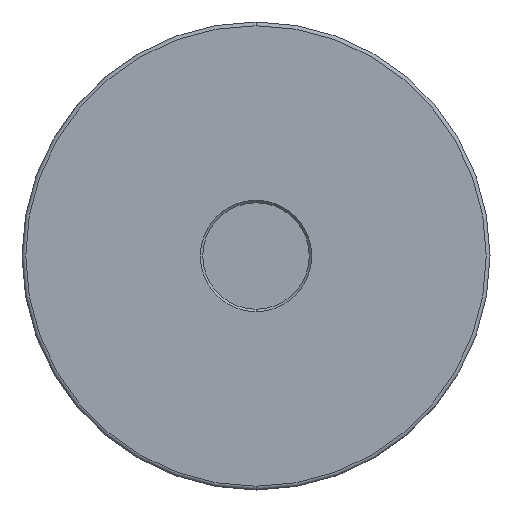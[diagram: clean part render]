
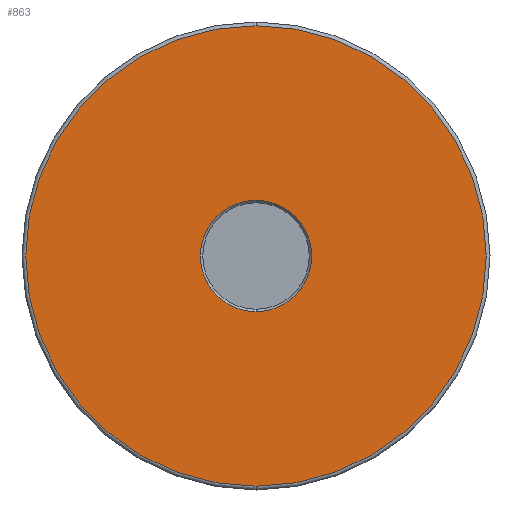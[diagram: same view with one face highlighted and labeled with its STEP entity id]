
A CAD part, front view. The second image highlights one B-rep face of the part: STEP entity #863.
In plain terms, the highlighted planar face has unit normal (0, -1, 0).
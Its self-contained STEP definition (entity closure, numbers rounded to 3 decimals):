
#131 = DIRECTION ( 'NONE',  ( 0., 1., 0. ) ) ;
#357 = VERTEX_POINT ( 'NONE', #8475 ) ;
#863 = ADVANCED_FACE ( 'NONE', ( #2200, #21577 ), #11564, .T. ) ;
#2200 = FACE_BOUND ( 'NONE', #55833, .T. ) ;
#4027 = CARTESIAN_POINT ( 'NONE',  ( 0., 0., 0. ) ) ;
#5626 = EDGE_CURVE ( 'NONE', #53269, #357, #15494, .T. ) ;
#6177 = AXIS2_PLACEMENT_3D ( 'NONE', #21512, #61003, #21833 ) ;
#7366 = CARTESIAN_POINT ( 'NONE',  ( -123., 0., 0. ) ) ;
#7629 = AXIS2_PLACEMENT_3D ( 'NONE', #4027, #131, #19520 ) ;
#8475 = CARTESIAN_POINT ( 'NONE',  ( 0., 0., -29.75 ) ) ;
#9923 = CARTESIAN_POINT ( 'NONE',  ( 0., 0., 29.75 ) ) ;
#11564 = PLANE ( 'NONE',  #63732 ) ;
#15494 = CIRCLE ( 'NONE', #6177, 29.75 ) ;
#16684 = ORIENTED_EDGE ( 'NONE', *, *, #51973, .F. ) ;
#16701 = CARTESIAN_POINT ( 'NONE',  ( 0., 0., 0. ) ) ;
#17015 = DIRECTION ( 'NONE',  ( 0., 1., 0. ) ) ;
#18878 = CARTESIAN_POINT ( 'NONE',  ( 0., 0., -123. ) ) ;
#19520 = DIRECTION ( 'NONE',  ( 0., 0., 1. ) ) ;
#21512 = CARTESIAN_POINT ( 'NONE',  ( 0., 0., 0. ) ) ;
#21577 = FACE_OUTER_BOUND ( 'NONE', #23616, .T. ) ;
#21833 = DIRECTION ( 'NONE',  ( 0., 0., 1. ) ) ;
#23616 = EDGE_LOOP ( 'NONE', ( #33660, #16684 ) ) ;
#25203 = CARTESIAN_POINT ( 'NONE',  ( 0., 0., 123. ) ) ;
#25684 = VERTEX_POINT ( 'NONE', #25203 ) ;
#30178 = EDGE_CURVE ( 'NONE', #357, #53269, #35065, .T. ) ;
#33516 = VERTEX_POINT ( 'NONE', #18878 ) ;
#33581 = AXIS2_PLACEMENT_3D ( 'NONE', #53652, #34265, #48165 ) ;
#33660 = ORIENTED_EDGE ( 'NONE', *, *, #43554, .F. ) ;
#34265 = DIRECTION ( 'NONE',  ( 0., 1., 0. ) ) ;
#34450 = ORIENTED_EDGE ( 'NONE', *, *, #5626, .T. ) ;
#35065 = CIRCLE ( 'NONE', #39221, 29.75 ) ;
#35531 = CIRCLE ( 'NONE', #7629, 123. ) ;
#36453 = DIRECTION ( 'NONE',  ( 0., 0., 1. ) ) ;
#39221 = AXIS2_PLACEMENT_3D ( 'NONE', #16701, #17015, #36453 ) ;
#43252 = ORIENTED_EDGE ( 'NONE', *, *, #30178, .T. ) ;
#43554 = EDGE_CURVE ( 'NONE', #25684, #33516, #35531, .T. ) ;
#48165 = DIRECTION ( 'NONE',  ( 0., 0., 1. ) ) ;
#51973 = EDGE_CURVE ( 'NONE', #33516, #25684, #58380, .T. ) ;
#53269 = VERTEX_POINT ( 'NONE', #9923 ) ;
#53652 = CARTESIAN_POINT ( 'NONE',  ( 0., 0., 0. ) ) ;
#55833 = EDGE_LOOP ( 'NONE', ( #43252, #34450 ) ) ;
#58380 = CIRCLE ( 'NONE', #33581, 123. ) ;
#61003 = DIRECTION ( 'NONE',  ( 0., 1., 0. ) ) ;
#61381 = DIRECTION ( 'NONE',  ( 0., 0., -1. ) ) ;
#61702 = DIRECTION ( 'NONE',  ( 0., -1., 0. ) ) ;
#63732 = AXIS2_PLACEMENT_3D ( 'NONE', #7366, #61702, #61381 ) ;
